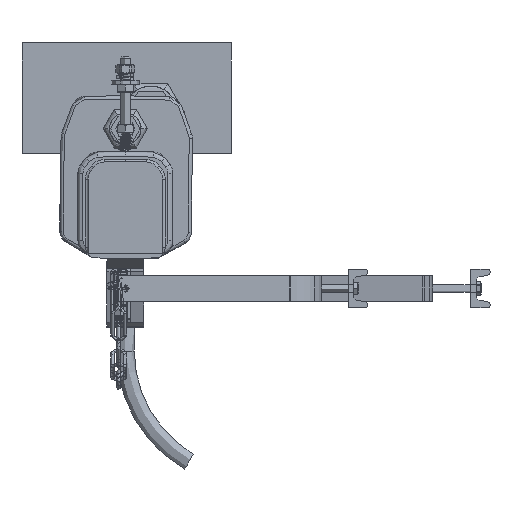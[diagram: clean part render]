
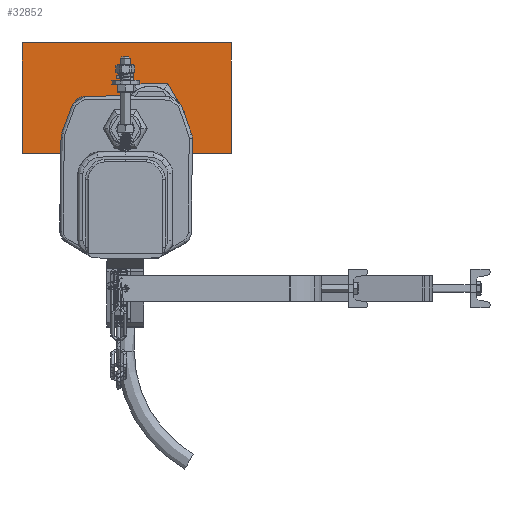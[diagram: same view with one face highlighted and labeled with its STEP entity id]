
A CAD part, front view. The second image highlights one B-rep face of the part: STEP entity #32852.
In plain terms, the highlighted planar face has unit normal (0, -1, 0).
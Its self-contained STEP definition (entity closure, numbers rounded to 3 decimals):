
#8112=ORIENTED_EDGE('',*,*,#12753,.T.);
#8113=ORIENTED_EDGE('',*,*,#12754,.T.);
#8114=ORIENTED_EDGE('',*,*,#12755,.T.);
#8115=ORIENTED_EDGE('',*,*,#12756,.T.);
#8116=ORIENTED_EDGE('',*,*,#12757,.T.);
#8117=ORIENTED_EDGE('',*,*,#12758,.T.);
#8118=ORIENTED_EDGE('',*,*,#12737,.F.);
#8119=ORIENTED_EDGE('',*,*,#12752,.F.);
#8120=ORIENTED_EDGE('',*,*,#12749,.F.);
#8121=ORIENTED_EDGE('',*,*,#12744,.F.);
#12737=EDGE_CURVE('',#15429,#15430,#17553,.T.);
#12744=EDGE_CURVE('',#15430,#15436,#17560,.T.);
#12749=EDGE_CURVE('',#15436,#15440,#17565,.T.);
#12752=EDGE_CURVE('',#15440,#15429,#17568,.T.);
#12753=EDGE_CURVE('',#15441,#15442,#17569,.T.);
#12754=EDGE_CURVE('',#15442,#15443,#17570,.T.);
#12755=EDGE_CURVE('',#15443,#15444,#17571,.T.);
#12756=EDGE_CURVE('',#15444,#15445,#17572,.T.);
#12757=EDGE_CURVE('',#15445,#15446,#17573,.T.);
#12758=EDGE_CURVE('',#15446,#15441,#17574,.T.);
#15429=VERTEX_POINT('',#61761);
#15430=VERTEX_POINT('',#61763);
#15436=VERTEX_POINT('',#61777);
#15440=VERTEX_POINT('',#61787);
#15441=VERTEX_POINT('',#61794);
#15442=VERTEX_POINT('',#61795);
#15443=VERTEX_POINT('',#61797);
#15444=VERTEX_POINT('',#61799);
#15445=VERTEX_POINT('',#61801);
#15446=VERTEX_POINT('',#61803);
#17553=LINE('',#61762,#19647);
#17560=LINE('',#61776,#19654);
#17565=LINE('',#61786,#19659);
#17568=LINE('',#61791,#19662);
#17569=LINE('',#61793,#19663);
#17570=LINE('',#61796,#19664);
#17571=LINE('',#61798,#19665);
#17572=LINE('',#61800,#19666);
#17573=LINE('',#61802,#19667);
#17574=LINE('',#61804,#19668);
#19647=VECTOR('',#41299,1000.);
#19654=VECTOR('',#41308,1000.);
#19659=VECTOR('',#41315,1000.);
#19662=VECTOR('',#41320,1000.);
#19663=VECTOR('',#41323,1000.);
#19664=VECTOR('',#41324,1000.);
#19665=VECTOR('',#41325,1000.);
#19666=VECTOR('',#41326,1000.);
#19667=VECTOR('',#41327,1000.);
#19668=VECTOR('',#41328,1000.);
#21400=EDGE_LOOP('',(#8112,#8113,#8114,#8115,#8116,#8117));
#21401=EDGE_LOOP('',(#8118,#8119,#8120,#8121));
#22992=FACE_BOUND('',#21400,.T.);
#22993=FACE_BOUND('',#21401,.T.);
#23917=PLANE('',#35259);
#32852=ADVANCED_FACE('',(#22992,#22993),#23917,.F.);
#35259=AXIS2_PLACEMENT_3D('',#61792,#41321,#41322);
#41299=DIRECTION('',(0.,0.,-1.));
#41308=DIRECTION('',(-1.,0.,0.));
#41315=DIRECTION('',(0.,0.,1.));
#41320=DIRECTION('',(1.,0.,0.));
#41321=DIRECTION('',(0.,1.,0.));
#41322=DIRECTION('',(0.,0.,-1.));
#41323=DIRECTION('',(-0.5,0.,0.866));
#41324=DIRECTION('',(0.5,0.,0.866));
#41325=DIRECTION('',(1.,0.,0.));
#41326=DIRECTION('',(0.5,0.,-0.866));
#41327=DIRECTION('',(-0.5,0.,-0.866));
#41328=DIRECTION('',(-1.,0.,0.));
#61761=CARTESIAN_POINT('',(82.877,-232.,131.7));
#61762=CARTESIAN_POINT('',(82.877,-232.,131.7));
#61763=CARTESIAN_POINT('',(82.877,-232.,44.7));
#61776=CARTESIAN_POINT('',(82.877,-232.,44.7));
#61777=CARTESIAN_POINT('',(-81.123,-232.,44.7));
#61786=CARTESIAN_POINT('',(-81.123,-232.,44.7));
#61787=CARTESIAN_POINT('',(-81.123,-232.,131.7));
#61791=CARTESIAN_POINT('',(-81.123,-232.,131.7));
#61792=CARTESIAN_POINT('',(0.877,-232.,88.2));
#61793=CARTESIAN_POINT('',(6.598,-232.,53.801));
#61794=CARTESIAN_POINT('',(6.598,-232.,53.801));
#61795=CARTESIAN_POINT('',(-6.682,-232.,76.801));
#61796=CARTESIAN_POINT('',(-6.682,-232.,76.801));
#61797=CARTESIAN_POINT('',(6.598,-232.,99.801));
#61798=CARTESIAN_POINT('',(6.598,-232.,99.801));
#61799=CARTESIAN_POINT('',(33.156,-232.,99.801));
#61800=CARTESIAN_POINT('',(33.156,-232.,99.801));
#61801=CARTESIAN_POINT('',(46.435,-232.,76.801));
#61802=CARTESIAN_POINT('',(46.435,-232.,76.801));
#61803=CARTESIAN_POINT('',(33.156,-232.,53.801));
#61804=CARTESIAN_POINT('',(33.156,-232.,53.801));
